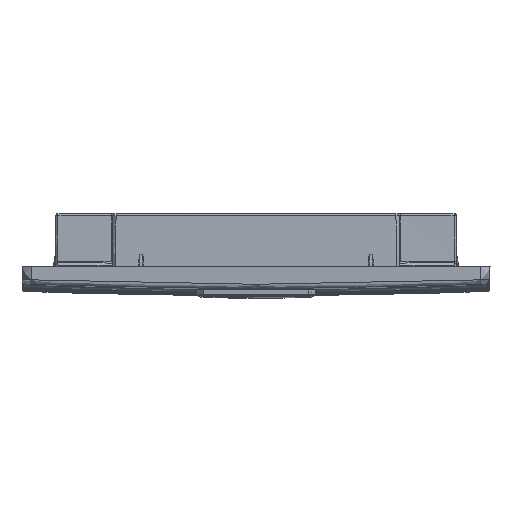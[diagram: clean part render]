
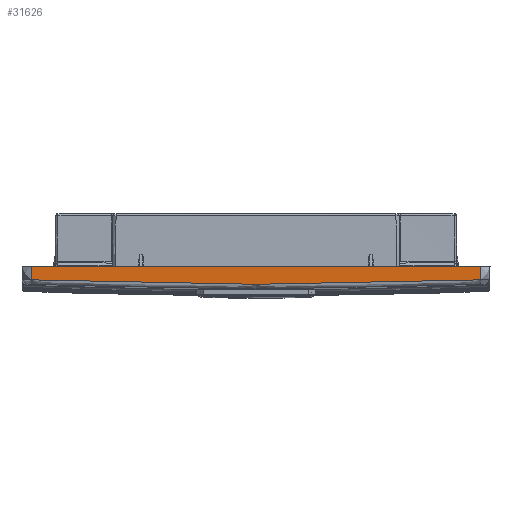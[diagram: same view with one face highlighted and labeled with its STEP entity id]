
A CAD part, top view. The second image highlights one B-rep face of the part: STEP entity #31626.
In plain terms, the highlighted planar face has unit normal (0, 0.035, -0.999).
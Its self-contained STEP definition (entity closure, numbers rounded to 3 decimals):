
#1857=PLANE('',#97648);
#31626=ADVANCED_FACE('',(#34644),#1857,.T.);
#34644=FACE_OUTER_BOUND('',#37665,.T.);
#37665=EDGE_LOOP('',(#46601,#46602,#46603,#46604,#46605));
#46601=ORIENTED_EDGE('',*,*,#61023,.T.);
#46602=ORIENTED_EDGE('',*,*,#61024,.T.);
#46603=ORIENTED_EDGE('',*,*,#61025,.T.);
#46604=ORIENTED_EDGE('',*,*,#61026,.T.);
#46605=ORIENTED_EDGE('',*,*,#61027,.T.);
#61023=EDGE_CURVE('',#89859,#89860,#68638,.T.);
#61024=EDGE_CURVE('',#89860,#89861,#76173,.T.);
#61025=EDGE_CURVE('',#89861,#89862,#76174,.T.);
#61026=EDGE_CURVE('',#89862,#89863,#76175,.T.);
#61027=EDGE_CURVE('',#89863,#89859,#68639,.T.);
#68638=(
BOUNDED_CURVE()
B_SPLINE_CURVE(2,(#215562,#215563,#215564),.UNSPECIFIED.,.F.,.F.)
B_SPLINE_CURVE_WITH_KNOTS((3,3),(0.,97.836),.UNSPECIFIED.)
CURVE()
GEOMETRIC_REPRESENTATION_ITEM()
RATIONAL_B_SPLINE_CURVE((1.,1.,1.))
REPRESENTATION_ITEM('')
);
#68639=(
BOUNDED_CURVE()
B_SPLINE_CURVE(2,(#215571,#215572,#215573),.UNSPECIFIED.,.F.,.F.)
B_SPLINE_CURVE_WITH_KNOTS((3,3),(0.,97.836),.UNSPECIFIED.)
CURVE()
GEOMETRIC_REPRESENTATION_ITEM()
RATIONAL_B_SPLINE_CURVE((1.,1.,1.))
REPRESENTATION_ITEM('')
);
#76173=B_SPLINE_CURVE_WITH_KNOTS('',1,(#215565,#215566),.UNSPECIFIED.,.F.,
 .F.,(2,2),(0.,5.866),.UNSPECIFIED.);
#76174=B_SPLINE_CURVE_WITH_KNOTS('',1,(#215567,#215568),.UNSPECIFIED.,.F.,
 .F.,(2,2),(0.,196.005),.UNSPECIFIED.);
#76175=B_SPLINE_CURVE_WITH_KNOTS('',1,(#215569,#215570),.UNSPECIFIED.,.F.,
 .F.,(2,2),(0.,5.866),.UNSPECIFIED.);
#89859=VERTEX_POINT('',#215557);
#89860=VERTEX_POINT('',#215558);
#89861=VERTEX_POINT('',#215559);
#89862=VERTEX_POINT('',#215560);
#89863=VERTEX_POINT('',#215561);
#97648=AXIS2_PLACEMENT_3D('',#215556,#98119,$);
#98119=DIRECTION('',(0.,0.035,-0.999));
#215556=CARTESIAN_POINT('',(321.254,-100.017,225.843));
#215557=CARTESIAN_POINT('',(203.64,-108.586,225.544));
#215558=CARTESIAN_POINT('',(105.842,-106.666,225.611));
#215559=CARTESIAN_POINT('',(105.637,-100.807,225.816));
#215560=CARTESIAN_POINT('',(301.642,-100.807,225.816));
#215561=CARTESIAN_POINT('',(301.437,-106.666,225.611));
#215562=CARTESIAN_POINT('',(203.64,-108.586,225.544));
#215563=CARTESIAN_POINT('',(154.722,-108.586,225.544));
#215564=CARTESIAN_POINT('',(105.842,-106.666,225.611));
#215565=CARTESIAN_POINT('',(105.842,-106.666,225.611));
#215566=CARTESIAN_POINT('',(105.637,-100.807,225.816));
#215567=CARTESIAN_POINT('',(105.637,-100.807,225.816));
#215568=CARTESIAN_POINT('',(301.642,-100.807,225.816));
#215569=CARTESIAN_POINT('',(301.642,-100.807,225.816));
#215570=CARTESIAN_POINT('',(301.437,-106.666,225.611));
#215571=CARTESIAN_POINT('',(301.437,-106.666,225.611));
#215572=CARTESIAN_POINT('',(252.557,-108.586,225.544));
#215573=CARTESIAN_POINT('',(203.64,-108.586,225.544));
